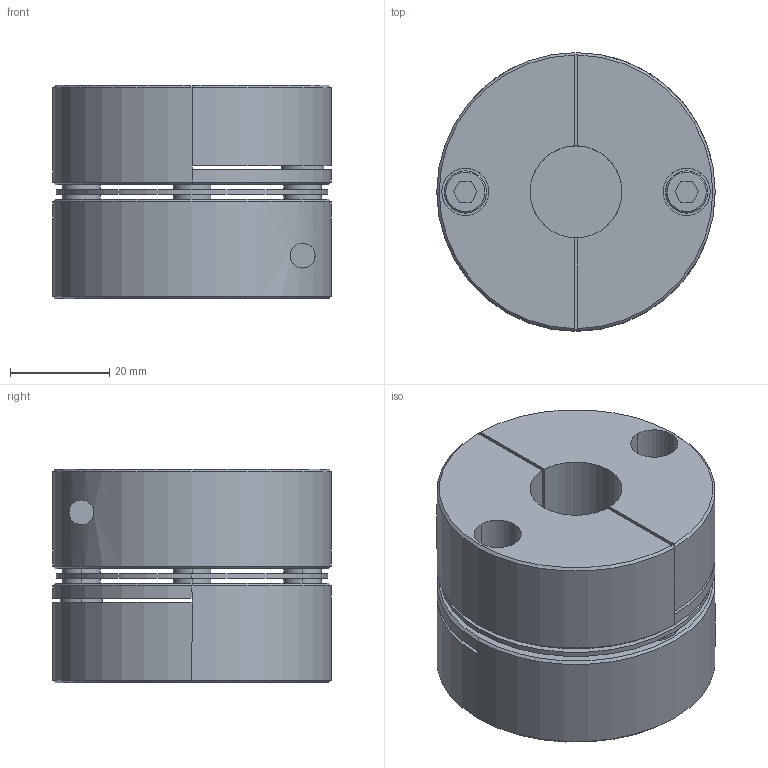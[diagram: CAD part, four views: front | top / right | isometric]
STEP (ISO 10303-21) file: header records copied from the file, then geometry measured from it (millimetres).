
FILE_DESCRIPTION (( 'STEP AP203' ), '1' );
FILE_NAME ('SHS56C.STEP', '2009-09-30T15:29:29', ( 'USER' ), ( 'HOME' ), 'SwSTEP 2.0', 'SolidWorks 2007', '' );
FILE_SCHEMA (( 'CONFIG_CONTROL_DESIGN' ));
Length unit declared in the file: millimetre
Products named in the file (3): SHS56C; SHS56C_預設; SHS56C(右)_預設
Assembly tree (3 placements, depth 2):
  SHS56C
    SHS56C(右)_預設  x2
    SHS56C_預設
Bounding box: 56 x 56 x 43 mm (x, y, z)
Volume: 81036.9 mm3; surface area: 33366.9 mm2
Topology: 3 solids, 3 shells, 174 faces, 422 edges, 272 vertices
Faces by surface type: plane 88, cylinder 66, cone 20
Entity records: 4095 total; most frequent: CARTESIAN_POINT 785, DIRECTION 648, ORIENTED_EDGE 588, EDGE_CURVE 294, AXIS2_PLACEMENT_3D 235, VERTEX_POINT 190, VECTOR 178, LINE 178
